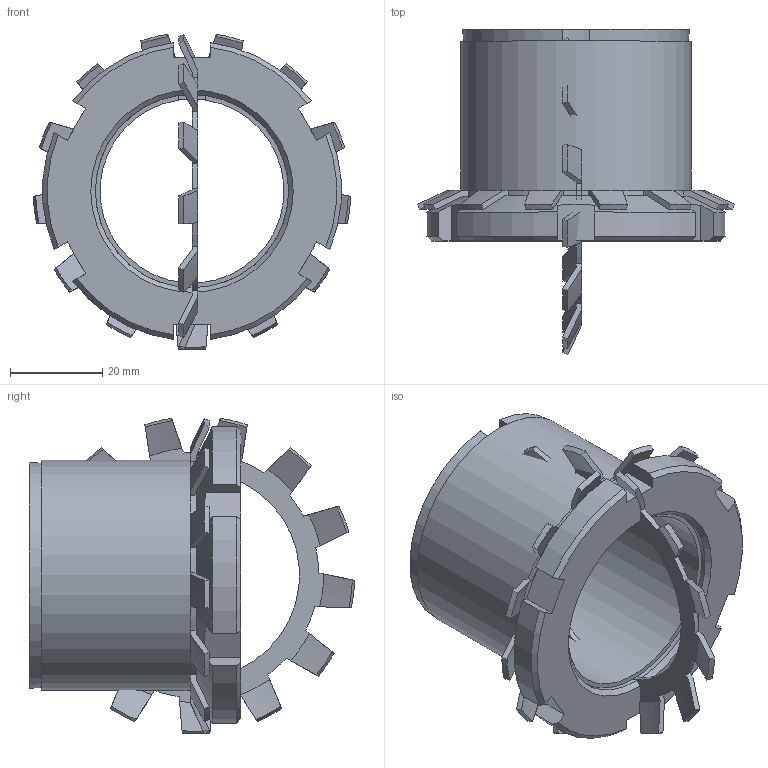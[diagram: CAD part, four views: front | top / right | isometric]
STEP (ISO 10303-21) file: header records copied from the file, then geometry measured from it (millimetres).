
FILE_DESCRIPTION( ( 'Unknown' ), '1' );
FILE_NAME( 'C:/Dokumente und Einstellungen/Sven/Desktop/homepage/cad - homepage/KBS55/KBS 55 - 40 x 50.stp', 'Unknown', ( 'Unknown' ), ( 'Unknown' ), 'XStep 1.0', 'Unknown', ' ' );
FILE_SCHEMA( ( 'automotive_design' ) );
Length unit declared in the file: millimetre
Products named in the file (3): Assem1; KBS 55 - 40 x 50; 08570095_locking_plate_din_5406_mb_9_2_14a
Bounding box: 68.96 x 70.73 x 68.57 mm (x, y, z)
Volume: 85032.7 mm3; surface area: 40954.7 mm2
Topology: 4 solids, 4 shells, 264 faces, 756 edges, 500 vertices
Faces by surface type: plane 120, cone 98, cylinder 46
Full cylindrical faces by diameter (mm): 42 x2, 50 x2
Entity records: 4792 total; most frequent: CARTESIAN_POINT 1009, ORIENTED_EDGE 744, DIRECTION 696, EDGE_CURVE 372, AXIS2_PLACEMENT_3D 273, VERTEX_POINT 248, LINE 150, VECTOR 150
